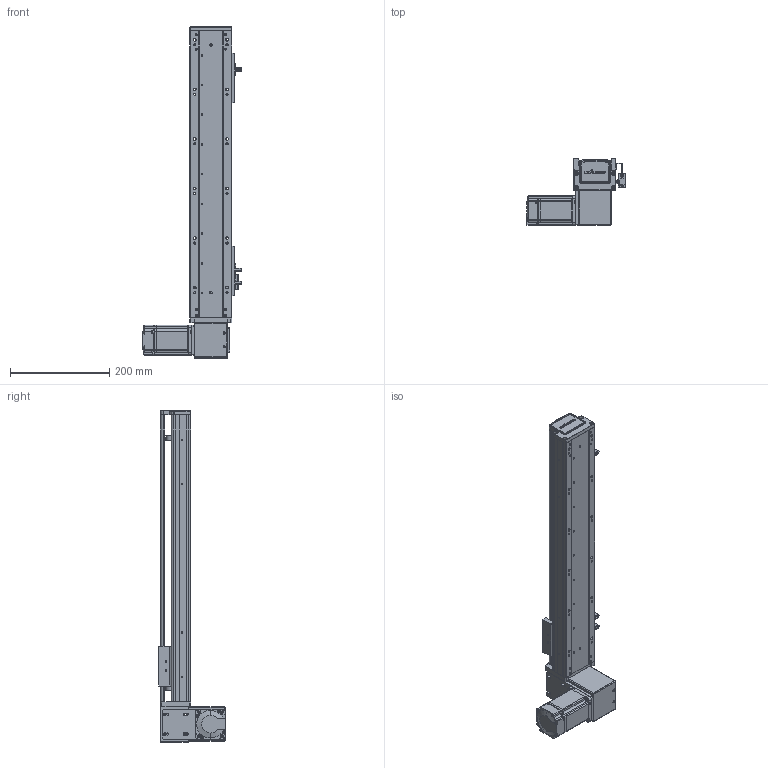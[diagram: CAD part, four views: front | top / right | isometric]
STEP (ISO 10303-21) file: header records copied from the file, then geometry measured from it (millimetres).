
FILE_DESCRIPTION (( 'STEP AP203' ), '1' );
FILE_NAME ('RY80-T-300-DL.SLDASM_400.step', '2021-03-01T01:37:41', ( '盈信电脑' ), ( '东莞市道滘镇水果街19号' ), 'SwSTEP 2.0', 'SolidWorks 2012', '' );
FILE_SCHEMA (( 'CONFIG_CONTROL_DESIGN' ));
Products named in the file (19): RY100-T粣創揤踡裔; RY80-T-300-DL.SLDASM_400; RY80-T-M4蹟翐3; RY80-T-上下折同步轮盖板; RY80-T肮祭謫狟殏俋欶; 1; RY80-T萇儂假蚾啣; RY80-T翋肮祭謫裔啣; 滅袉蝶18-10; RY80-T肮祭湍揤輸2; RY80-T-翋肮祭謫釱; RY80-T肮祭湍揤輸1; RY80俋离覜茼え; RY80-T綴裔啣; 672嫖萇羲壽假蚾釱; 覜茼ん672; RY80-T-300-DL倰第奻裔啣_400; RY80-T-300-DL倰第菁釱_400; RY80-T肮祭謫臏賑輸
Assembly tree (24 placements, depth 2):
  RY80-T-300-DL.SLDASM_400
    RY80-T-300-DL倰第菁釱_400
    RY80-T肮祭謫臏賑輸
    RY80-T-300-DL倰第奻裔啣_400
    RY80-T綴裔啣
    672嫖萇羲壽假蚾釱  x2
    覜茼ん672  x3
    RY80俋离覜茼え
    RY80-T-翋肮祭謫釱
    RY80-T肮祭湍揤輸1
    RY80-T肮祭湍揤輸2
    RY80-T萇儂假蚾啣
    RY80-T翋肮祭謫裔啣  x2
    滅袉蝶18-10  x2
    1
    RY80-T肮祭謫狟殏俋欶
    RY80-T-M4蹟翐3  x2
    RY80-T-上下折同步轮盖板
    RY100-T粣創揤踡裔
Bounding box: 198.7 x 134.5 x 670 mm (x, y, z)
Volume: 1408294.5 mm3; surface area: 574216.3 mm2
Topology: 24 solids, 24 shells, 2442 faces, 6715 edges, 4359 vertices
Faces by surface type: plane 1336, cylinder 903, cone 147, bspline 56
Entity records: 76067 total; most frequent: CARTESIAN_POINT 18091, ORIENTED_EDGE 11874, DIRECTION 11208, EDGE_CURVE 5937, VERTEX_POINT 3900, AXIS2_PLACEMENT_3D 3745, LINE 3718, VECTOR 3718
